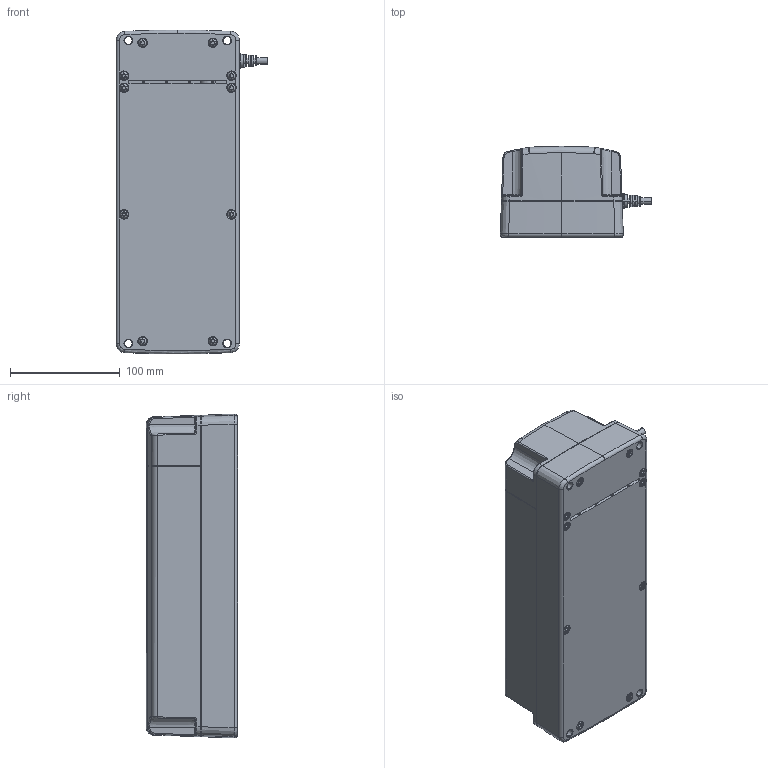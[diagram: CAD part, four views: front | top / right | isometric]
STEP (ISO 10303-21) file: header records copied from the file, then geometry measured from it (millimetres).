
FILE_DESCRIPTION (( 'STEP AP214' ), '1' );
FILE_NAME ('產品三維模型圖-TBB6-A.STEP', '2016-01-05T02:34:29', ( '' ), ( '' ), 'SwSTEP 2.0', 'SolidWorks 2015', '' );
FILE_SCHEMA (( 'AUTOMOTIVE_DESIGN' ));
Length unit declared in the file: millimetre
Products named in the file (1): 產品三維模型圖-TBB6-A
Bounding box: 138.04 x 83 x 295.09 mm (x, y, z)
Volume: 2537344.6 mm3; surface area: 210181.6 mm2
Topology: 6 solids, 6 shells, 850 faces, 2234 edges, 1453 vertices
Faces by surface type: plane 332, bspline 178, cylinder 155, cone 114, torus 71
Entity records: 32161 total; most frequent: CARTESIAN_POINT 12352, ORIENTED_EDGE 4468, DIRECTION 3588, EDGE_CURVE 2234, VERTEX_POINT 1453, AXIS2_PLACEMENT_3D 1309, LINE 970, VECTOR 970
